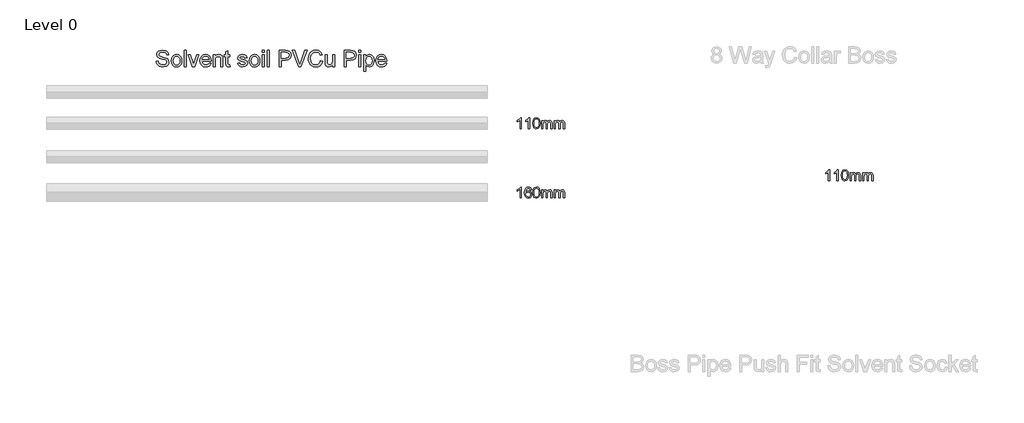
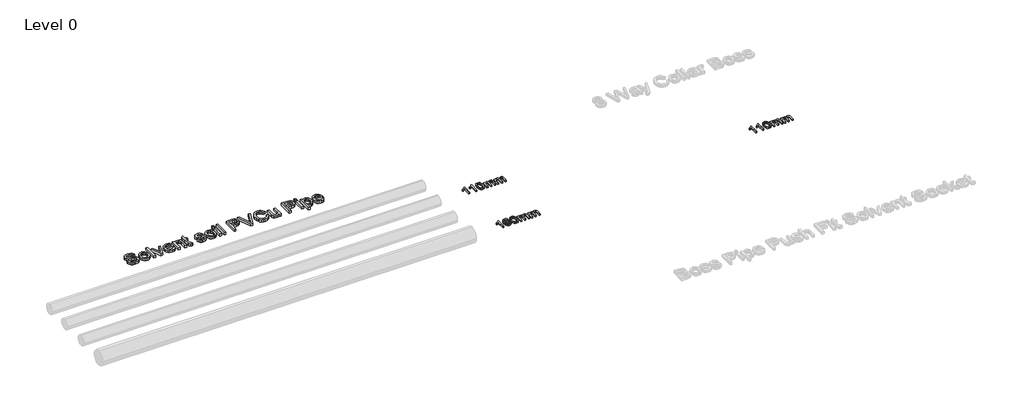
# One storey, part 13 of 28: 4 proxies.
"""IFC4 building model written with IfcOpenShell, lengths in millimetres."""

from ifc_helpers import new_model, si_unit, origin, origin_with_axes, place, context, project, spatial, polyline, outline, extrude, element, save

model = new_model("IFC4")

# Units and contexts
model_context = context("Model", 3, world=origin())
ifc_project = project(units=[si_unit("LENGTHUNIT", "METRE", prefix="MILLI")], contexts=[model_context])

# Site, building, storey
site = spatial("IfcSite", under=ifc_project)
building = spatial("IfcBuilding", under=site)
storey = spatial("IfcBuildingStorey", under=building, Name="Level 0", Elevation=0.0)

# Proxies
placement = place(None, origin())
element("IfcBuildingElementProxy", 1, Name="100mm Arial", ObjectType="100mm Arial", at=placement, inside=storey, context=model_context, shape_type="SweptSolid", body=[
    extrude(outline(polyline([(-23591.7293188, 8710.0861605), (-23604.0370111, 8710.0861605), (-23604.0370111, 8786.8169297), (-23615.6956649, 8778.5116413), (-23628.6523957, 8772.297699), (-23628.6523957, 8783.9323143), (-23610.6115303, 8795.4467374), (-23599.6620111, 8808.547699), (-23591.7293188, 8808.547699), (-23591.7293188, 8710.0861605)])), origin_with_axes(), (0.0, 0.0, 1.0), 15.0),
    extrude(outline(polyline([(-23516.3447034, 8710.0861605), (-23528.6523957, 8710.0861605), (-23528.6523957, 8786.8169297), (-23540.3110495, 8778.5116413), (-23553.2677803, 8772.297699), (-23553.2677803, 8783.9323143), (-23535.2269149, 8795.4467374), (-23524.2773957, 8808.547699), (-23516.3447034, 8808.547699), (-23516.3447034, 8710.0861605)])), origin_with_axes(), (0.0, 0.0, 1.0), 15.0),
    extrude(outline(polyline([(-23487.1139341, 8758.5236605), (-23483.4961457, 8786.8529874), (-23472.7509534, 8803.187122), (-23454.8062418, 8808.547699), (-23440.4312418, 8805.374622), (-23430.5033572, 8796.2279874), (-23424.7341264, 8781.6606797), (-23422.4985495, 8758.5236605), (-23426.0802803, 8730.3145259), (-23436.7894149, 8713.9443336), (-23454.8062418, 8708.547699), (-23467.5947034, 8710.891449), (-23477.3062418, 8717.922699), (-23484.6620111, 8734.5753432), (-23487.1139341, 8758.5236605)]), holes=[polyline([(-23474.8062418, 8758.547699), (-23473.3639341, 8739.187723), (-23469.0370111, 8727.9827951), (-23462.5947034, 8722.6372422), (-23454.8062418, 8720.8553913), (-23447.0177803, 8722.6432518), (-23440.5754726, 8728.0068336), (-23436.2485495, 8739.2177711), (-23434.8062418, 8758.547699), (-23436.2004726, 8777.4719778), (-23440.3831649, 8788.7640451), (-23446.8134534, 8794.3710163), (-23454.9504726, 8796.2400066), (-23462.6547995, 8794.593372), (-23468.8447034, 8789.6534682), (-23473.3158572, 8777.6582759), (-23474.8062418, 8758.547699)])]), origin_with_axes(), (0.0, 0.0, 1.0), 15.0),
    extrude(outline(polyline([(-23408.6523957, 8710.0861605), (-23408.6523957, 8782.3938528), (-23396.3447034, 8782.3938528), (-23396.3447034, 8770.4948143), (-23387.8831649, 8780.2424105), (-23375.8398957, 8783.9323143), (-23363.5081649, 8780.1702951), (-23356.7293188, 8769.6294297), (-23347.1259534, 8780.3565932), (-23334.9985495, 8783.9323143), (-23325.7467466, 8782.4449345), (-23318.9047995, 8777.9827951), (-23314.6770351, 8770.4257038), (-23313.2677803, 8759.6534682), (-23313.2677803, 8710.0861605), (-23325.5754726, 8710.0861605), (-23325.5754726, 8754.3650066), (-23326.7172995, 8764.641449), (-23330.8519149, 8769.7015451), (-23337.8831649, 8771.624622), (-23349.9865303, 8766.6967374), (-23354.8062418, 8750.9034682), (-23354.8062418, 8710.0861605), (-23367.1139341, 8710.0861605), (-23367.1139341, 8755.735199), (-23369.9624918, 8767.6582759), (-23379.3014341, 8771.624622), (-23388.4120111, 8768.9803913), (-23394.4697034, 8761.2400066), (-23396.3447034, 8746.5525066), (-23396.3447034, 8710.0861605), (-23408.6523957, 8710.0861605)])), origin_with_axes(), (0.0, 0.0, 1.0), 15.0),
    extrude(outline(polyline([(-23294.8062418, 8710.0861605), (-23294.8062418, 8782.3938528), (-23282.4985495, 8782.3938528), (-23282.4985495, 8770.4948143), (-23274.0370111, 8780.2424105), (-23261.9937418, 8783.9323143), (-23249.6620111, 8780.1702951), (-23242.8831649, 8769.6294297), (-23233.2797995, 8780.3565932), (-23221.1523957, 8783.9323143), (-23211.9005928, 8782.4449345), (-23205.0586457, 8777.9827951), (-23200.8308813, 8770.4257038), (-23199.4216264, 8759.6534682), (-23199.4216264, 8710.0861605), (-23211.7293188, 8710.0861605), (-23211.7293188, 8754.3650066), (-23212.8711457, 8764.641449), (-23217.0057611, 8769.7015451), (-23224.0370111, 8771.624622), (-23236.1403764, 8766.6967374), (-23240.960088, 8750.9034682), (-23240.960088, 8710.0861605), (-23253.2677803, 8710.0861605), (-23253.2677803, 8755.735199), (-23256.116338, 8767.6582759), (-23265.4552803, 8771.624622), (-23274.5658572, 8768.9803913), (-23280.6235495, 8761.2400066), (-23282.4985495, 8746.5525066), (-23282.4985495, 8710.0861605), (-23294.8062418, 8710.0861605)])), origin_with_axes(), (0.0, 0.0, 1.0), 15.0),
])
element("IfcBuildingElementProxy", 2, Name="100mm Arial", ObjectType="100mm Arial", at=placement, inside=storey, context=model_context, shape_type="SweptSolid", body=[
    extrude(outline(polyline([(-23591.7293188, 8081.2108342), (-23604.0370111, 8081.2108342), (-23604.0370111, 8157.9416034), (-23615.6956649, 8149.636315), (-23628.6523957, 8143.4223727), (-23628.6523957, 8155.056988), (-23610.6115303, 8166.5714111), (-23599.6620111, 8179.6723727), (-23591.7293188, 8179.6723727), (-23591.7293188, 8081.2108342)])), origin_with_axes(), (0.0, 0.0, 1.0), 15.0),
    extrude(outline(polyline([(-23499.4216264, 8153.5185265), (-23511.7293188, 8151.980065), (-23516.3927803, 8162.244488), (-23528.7245111, 8167.3646804), (-23539.8302803, 8164.3839111), (-23548.2317226, 8153.1940073), (-23551.7293188, 8131.2589111), (-23540.8759534, 8141.0786227), (-23527.4264341, 8144.2877573), (-23516.0562418, 8142.0942477), (-23506.5129726, 8135.5137188), (-23500.0406168, 8125.4596323), (-23497.8831649, 8112.8454496), (-23501.9456649, 8095.8622765), (-23513.1235495, 8083.8430457), (-23529.2533572, 8079.6723727), (-23543.2166986, 8082.4367957), (-23554.3374918, 8090.730065), (-23561.6121313, 8105.369488), (-23564.0370111, 8127.1723727), (-23561.3447034, 8151.6855938), (-23553.2677803, 8168.4464111), (-23542.2401361, 8176.8658823), (-23527.9552803, 8179.6723727), (-23517.1560014, 8177.9355938), (-23508.5081649, 8172.7252573), (-23502.4504726, 8164.4500169), (-23499.4216264, 8153.5185265)]), holes=[polyline([(-23551.7293188, 8113.0377573), (-23548.8807611, 8102.3766996), (-23541.3086457, 8094.636315), (-23530.2148957, 8091.980065), (-23522.0929005, 8093.3562669), (-23515.7076841, 8097.4848727), (-23511.5700639, 8103.9752573), (-23510.1908572, 8112.4367957), (-23511.5520351, 8120.5587909), (-23515.6355688, 8126.7516996), (-23530.7197034, 8131.980065), (-23545.6115303, 8126.7516996), (-23550.1998716, 8120.7090313), (-23551.7293188, 8113.0377573)])]), origin_with_axes(), (0.0, 0.0, 1.0), 15.0),
    extrude(outline(polyline([(-23487.1139341, 8129.6483342), (-23483.4961457, 8157.9776611), (-23472.7509534, 8174.3117957), (-23454.8062418, 8179.6723727), (-23440.4312418, 8176.4992957), (-23430.5033572, 8167.3526611), (-23424.7341264, 8152.7853534), (-23422.4985495, 8129.6483342), (-23426.0802803, 8101.4391996), (-23436.7894149, 8085.0690073), (-23454.8062418, 8079.6723727), (-23467.5947034, 8082.0161227), (-23477.3062418, 8089.0473727), (-23484.6620111, 8105.7000169), (-23487.1139341, 8129.6483342)]), holes=[polyline([(-23474.8062418, 8129.6723727), (-23473.3639341, 8110.3123967), (-23469.0370111, 8099.1074688), (-23462.5947034, 8093.7619159), (-23454.8062418, 8091.980065), (-23447.0177803, 8093.7679255), (-23440.5754726, 8099.1315073), (-23436.2485495, 8110.3424448), (-23434.8062418, 8129.6723727), (-23436.2004726, 8148.5966515), (-23440.3831649, 8159.8887188), (-23446.8134534, 8165.49569), (-23454.9504726, 8167.3646804), (-23462.6547995, 8165.7180457), (-23468.8447034, 8160.7781419), (-23473.3158572, 8148.7829496), (-23474.8062418, 8129.6723727)])]), origin_with_axes(), (0.0, 0.0, 1.0), 15.0),
    extrude(outline(polyline([(-23408.6523957, 8081.2108342), (-23408.6523957, 8153.5185265), (-23396.3447034, 8153.5185265), (-23396.3447034, 8141.619488), (-23387.8831649, 8151.3670842), (-23375.8398957, 8155.056988), (-23363.5081649, 8151.2949688), (-23356.7293188, 8140.7541034), (-23347.1259534, 8151.4812669), (-23334.9985495, 8155.056988), (-23325.7467466, 8153.5696082), (-23318.9047995, 8149.1074688), (-23314.6770351, 8141.5503775), (-23313.2677803, 8130.7781419), (-23313.2677803, 8081.2108342), (-23325.5754726, 8081.2108342), (-23325.5754726, 8125.4896804), (-23326.7172995, 8135.7661227), (-23330.8519149, 8140.8262188), (-23337.8831649, 8142.7492957), (-23349.9865303, 8137.8214111), (-23354.8062418, 8122.0281419), (-23354.8062418, 8081.2108342), (-23367.1139341, 8081.2108342), (-23367.1139341, 8126.8598727), (-23369.9624918, 8138.7829496), (-23379.3014341, 8142.7492957), (-23388.4120111, 8140.105065), (-23394.4697034, 8132.3646804), (-23396.3447034, 8117.6771804), (-23396.3447034, 8081.2108342), (-23408.6523957, 8081.2108342)])), origin_with_axes(), (0.0, 0.0, 1.0), 15.0),
    extrude(outline(polyline([(-23294.8062418, 8081.2108342), (-23294.8062418, 8153.5185265), (-23282.4985495, 8153.5185265), (-23282.4985495, 8141.619488), (-23274.0370111, 8151.3670842), (-23261.9937418, 8155.056988), (-23249.6620111, 8151.2949688), (-23242.8831649, 8140.7541034), (-23233.2797995, 8151.4812669), (-23221.1523957, 8155.056988), (-23211.9005928, 8153.5696082), (-23205.0586457, 8149.1074688), (-23200.8308813, 8141.5503775), (-23199.4216264, 8130.7781419), (-23199.4216264, 8081.2108342), (-23211.7293188, 8081.2108342), (-23211.7293188, 8125.4896804), (-23212.8711457, 8135.7661227), (-23217.0057611, 8140.8262188), (-23224.0370111, 8142.7492957), (-23236.1403764, 8137.8214111), (-23240.960088, 8122.0281419), (-23240.960088, 8081.2108342), (-23253.2677803, 8081.2108342), (-23253.2677803, 8126.8598727), (-23256.116338, 8138.7829496), (-23265.4552803, 8142.7492957), (-23274.5658572, 8140.105065), (-23280.6235495, 8132.3646804), (-23282.4985495, 8117.6771804), (-23282.4985495, 8081.2108342), (-23294.8062418, 8081.2108342)])), origin_with_axes(), (0.0, 0.0, 1.0), 15.0),
])
element("IfcBuildingElementProxy", 3, Name="100mm Arial", ObjectType="100mm Arial", at=placement, inside=storey, context=model_context, shape_type="SweptSolid", body=[
    extrude(outline(polyline([(-20791.7293188, 8237.7167304), (-20804.0370111, 8237.7167304), (-20804.0370111, 8314.4474996), (-20815.6956649, 8306.1422111), (-20828.6523957, 8299.9282688), (-20828.6523957, 8311.5628842), (-20810.6115303, 8323.0773073), (-20799.6620111, 8336.1782688), (-20791.7293188, 8336.1782688), (-20791.7293188, 8237.7167304)])), origin_with_axes(), (0.0, 0.0, 1.0), 15.0),
    extrude(outline(polyline([(-20716.3447034, 8237.7167304), (-20728.6523957, 8237.7167304), (-20728.6523957, 8314.4474996), (-20740.3110495, 8306.1422111), (-20753.2677803, 8299.9282688), (-20753.2677803, 8311.5628842), (-20735.2269149, 8323.0773073), (-20724.2773957, 8336.1782688), (-20716.3447034, 8336.1782688), (-20716.3447034, 8237.7167304)])), origin_with_axes(), (0.0, 0.0, 1.0), 15.0),
    extrude(outline(polyline([(-20687.1139341, 8286.1542304), (-20683.4961457, 8314.4835573), (-20672.7509534, 8330.8176919), (-20654.8062418, 8336.1782688), (-20640.4312418, 8333.0051919), (-20630.5033572, 8323.8585573), (-20624.7341264, 8309.2912496), (-20622.4985495, 8286.1542304), (-20626.0802803, 8257.9450958), (-20636.7894149, 8241.5749035), (-20654.8062418, 8236.1782688), (-20667.5947034, 8238.5220188), (-20677.3062418, 8245.5532688), (-20684.6620111, 8262.2059131), (-20687.1139341, 8286.1542304)]), holes=[polyline([(-20674.8062418, 8286.1782688), (-20673.3639341, 8266.8182929), (-20669.0370111, 8255.613365), (-20662.5947034, 8250.2678121), (-20654.8062418, 8248.4859611), (-20647.0177803, 8250.2738217), (-20640.5754726, 8255.6374035), (-20636.2485495, 8266.848341), (-20634.8062418, 8286.1782688), (-20636.2004726, 8305.1025477), (-20640.3831649, 8316.394615), (-20646.8134534, 8322.0015861), (-20654.9504726, 8323.8705765), (-20662.6547995, 8322.2239419), (-20668.8447034, 8317.2840381), (-20673.3158572, 8305.2888458), (-20674.8062418, 8286.1782688)])]), origin_with_axes(), (0.0, 0.0, 1.0), 15.0),
    extrude(outline(polyline([(-20608.6523957, 8237.7167304), (-20608.6523957, 8310.0244227), (-20596.3447034, 8310.0244227), (-20596.3447034, 8298.1253842), (-20587.8831649, 8307.8729804), (-20575.8398957, 8311.5628842), (-20563.5081649, 8307.800865), (-20556.7293188, 8297.2599996), (-20547.1259534, 8307.9871631), (-20534.9985495, 8311.5628842), (-20525.7467466, 8310.0755044), (-20518.9047995, 8305.613365), (-20514.6770351, 8298.0562736), (-20513.2677803, 8287.2840381), (-20513.2677803, 8237.7167304), (-20525.5754726, 8237.7167304), (-20525.5754726, 8281.9955765), (-20526.7172995, 8292.2720188), (-20530.8519149, 8297.332115), (-20537.8831649, 8299.2551919), (-20549.9865303, 8294.3273073), (-20554.8062418, 8278.5340381), (-20554.8062418, 8237.7167304), (-20567.1139341, 8237.7167304), (-20567.1139341, 8283.3657688), (-20569.9624918, 8295.2888458), (-20579.3014341, 8299.2551919), (-20588.4120111, 8296.6109611), (-20594.4697034, 8288.8705765), (-20596.3447034, 8274.1830765), (-20596.3447034, 8237.7167304), (-20608.6523957, 8237.7167304)])), origin_with_axes(), (0.0, 0.0, 1.0), 15.0),
    extrude(outline(polyline([(-20494.8062418, 8237.7167304), (-20494.8062418, 8310.0244227), (-20482.4985495, 8310.0244227), (-20482.4985495, 8298.1253842), (-20474.0370111, 8307.8729804), (-20461.9937418, 8311.5628842), (-20449.6620111, 8307.800865), (-20442.8831649, 8297.2599996), (-20433.2797995, 8307.9871631), (-20421.1523957, 8311.5628842), (-20411.9005928, 8310.0755044), (-20405.0586457, 8305.613365), (-20400.8308813, 8298.0562736), (-20399.4216264, 8287.2840381), (-20399.4216264, 8237.7167304), (-20411.7293188, 8237.7167304), (-20411.7293188, 8281.9955765), (-20412.8711457, 8292.2720188), (-20417.0057611, 8297.332115), (-20424.0370111, 8299.2551919), (-20436.1403764, 8294.3273073), (-20440.960088, 8278.5340381), (-20440.960088, 8237.7167304), (-20453.2677803, 8237.7167304), (-20453.2677803, 8283.3657688), (-20456.116338, 8295.2888458), (-20465.4552803, 8299.2551919), (-20474.5658572, 8296.6109611), (-20480.6235495, 8288.8705765), (-20482.4985495, 8274.1830765), (-20482.4985495, 8237.7167304), (-20494.8062418, 8237.7167304)])), origin_with_axes(), (0.0, 0.0, 1.0), 15.0),
])
element("IfcBuildingElementProxy", 4, Name="150mm Arial", ObjectType="150mm Arial", at=placement, inside=storey, context=model_context, shape_type="SweptSolid", body=[
    extrude(outline(polyline([(-26906.241976, 9323.1874709), (-26887.7804375, 9323.1874709), (-26881.8309183, 9304.7079036), (-26867.2996683, 9293.0252113), (-26845.1602452, 9288.5720863), (-26825.8693798, 9291.9434805), (-26813.4114471, 9301.2103075), (-26809.3188991, 9313.5961248), (-26812.3838029, 9325.1165575), (-26824.9318798, 9333.4999709), (-26851.8128895, 9340.5492498), (-26880.7491875, 9349.6538171), (-26896.4523125, 9363.3917978), (-26901.6265914, 9381.7451632), (-26900.0265313, 9392.5579637), (-26895.226351, 9402.6405959), (-26887.3522524, 9411.186269), (-26876.5304375, 9417.3881921), (-26849.1626491, 9422.4182401), (-26819.9559183, 9417.1538171), (-26808.7600048, 9410.654418), (-26800.4847645, 9401.6850671), (-26795.2473846, 9390.8046584), (-26793.1650529, 9378.5720863), (-26811.6265914, 9378.5720863), (-26815.0160145, 9389.5877113), (-26822.0833221, 9397.5384325), (-26833.1259904, 9402.3521344), (-26848.4414952, 9403.9567017), (-26864.117577, 9402.3701632), (-26874.8717837, 9397.6105478), (-26881.0917356, 9390.6063411), (-26883.1650529, 9382.2860286), (-26881.695702, 9375.1916776), (-26877.2876491, 9369.4855478), (-26847.1434183, 9359.1730478), (-26814.4751491, 9349.9062209), (-26803.9508101, 9343.2085046), (-26796.6085625, 9334.9422786), (-26790.8573606, 9314.0648748), (-26792.5115072, 9302.6841656), (-26797.4739471, 9291.9795382), (-26805.5418558, 9282.7667978), (-26816.5124087, 9275.8617498), (-26844.4390914, 9270.1105478), (-26862.5265313, 9271.6610286), (-26877.413851, 9276.3124709), (-26889.2723245, 9284.0829036), (-26898.273226, 9294.9903555), (-26904.0514712, 9308.2776151), (-26906.241976, 9323.1874709)])), origin_with_axes(), (0.0, 0.0, 1.0), 25.0),
    extrude(outline(polyline([(-26770.0881298, 9326.6490094), (-26766.0947404, 9352.7998507), (-26754.1145721, 9371.1802594), (-26739.3128895, 9380.185668), (-26721.5905337, 9383.1874709), (-26702.1960024, 9379.5321224), (-26686.7047164, 9368.5660767), (-26676.5499688, 9351.1547185), (-26673.1650529, 9328.1634325), (-26674.6614471, 9309.5125911), (-26679.1506298, 9295.3148748), (-26686.5018919, 9284.6823627), (-26696.5845241, 9276.7271344), (-26708.5601851, 9271.7646945), (-26721.5905337, 9270.1105478), (-26741.2194399, 9273.7523748), (-26756.6926971, 9284.6778555), (-26766.7392717, 9302.4542978), (-26770.0881298, 9326.6490094)]), holes=[polyline([(-26751.6265914, 9326.6850671), (-26749.4901731, 9309.9768339), (-26743.0809183, 9298.0732882), (-26733.4354856, 9290.9473868), (-26721.5905337, 9288.5720863), (-26709.7996683, 9290.9609084), (-26700.1722645, 9298.1273748), (-26693.7630096, 9310.1886728), (-26691.6265914, 9327.2619901), (-26693.7765313, 9343.4834445), (-26700.226351, 9355.2247305), (-26709.8672765, 9362.350632), (-26721.5905337, 9364.7259325), (-26733.4354856, 9362.3596464), (-26743.0809183, 9355.2607882), (-26749.4901731, 9343.3842858), (-26751.6265914, 9326.6850671)])]), origin_with_axes(), (0.0, 0.0, 1.0), 25.0),
    extrude(outline(polyline([(-26652.3958221, 9272.4182401), (-26652.3958221, 9420.1105478), (-26633.9342837, 9420.1105478), (-26633.9342837, 9272.4182401), (-26652.3958221, 9272.4182401)])), origin_with_axes(), (0.0, 0.0, 1.0), 25.0),
    extrude(outline(polyline([(-26579.6313991, 9272.4182401), (-26617.7804375, 9380.8797786), (-26598.2371683, 9380.8797786), (-26575.1241875, 9315.9038171), (-26568.1650529, 9294.0528555), (-26561.3501491, 9314.6778555), (-26538.0929375, 9380.8797786), (-26518.5496683, 9380.8797786), (-26556.2299568, 9272.4182401), (-26579.6313991, 9272.4182401)])), origin_with_axes(), (0.0, 0.0, 1.0), 25.0),
    extrude(outline(polyline([(-26426.4583221, 9304.7259325), (-26408.3573606, 9302.4182401), (-26414.8792957, 9288.779418), (-26425.2864471, 9278.5841055), (-26439.3444399, 9272.2289373), (-26456.8188991, 9270.1105478), (-26478.4805577, 9273.7658964), (-26495.148226, 9284.7319421), (-26505.7762308, 9302.2965454), (-26509.3188991, 9325.7475671), (-26505.7401731, 9349.9873507), (-26495.0039952, 9368.1153555), (-26478.5616875, 9379.4194421), (-26457.8645721, 9383.1874709), (-26437.811988, 9379.4284565), (-26421.788851, 9368.1514132), (-26411.2825409, 9350.0594661), (-26407.7804375, 9325.8557401), (-26407.8886106, 9320.8797786), (-26490.8573606, 9320.8797786), (-26487.6617476, 9307.060668), (-26480.2383702, 9296.9014132), (-26469.5247284, 9290.654418), (-26456.4583221, 9288.5720863), (-26438.3573606, 9292.4302594), (-26426.4583221, 9304.7259325)]), holes=[polyline([(-26490.8573606, 9339.3413171), (-26426.241976, 9339.3413171), (-26428.7389712, 9349.0949228), (-26433.6338029, 9356.0720863), (-26444.3970241, 9362.5624709), (-26457.9366875, 9364.7259325), (-26470.3810986, 9362.9996704), (-26480.6710625, 9357.8208844), (-26487.8240072, 9349.7484685), (-26490.8573606, 9339.3413171)])]), origin_with_axes(), (0.0, 0.0, 1.0), 25.0),
    extrude(outline(polyline([(-26389.3188991, 9272.4182401), (-26389.3188991, 9380.8797786), (-26370.8573606, 9380.8797786), (-26370.8573606, 9365.7355478), (-26356.7407741, 9378.8244901), (-26337.4679375, 9383.1874709), (-26320.0340433, 9379.6718459), (-26308.1350048, 9370.4410767), (-26302.6001491, 9356.8653555), (-26301.6265914, 9339.0167978), (-26301.6265914, 9272.4182401), (-26320.0881298, 9272.4182401), (-26320.0881298, 9336.5288171), (-26322.2155337, 9352.8629517), (-26329.7335625, 9361.498769), (-26342.4078414, 9364.7259325), (-26353.2206419, 9362.9140334), (-26362.4378895, 9357.4783363), (-26368.7524928, 9346.9765334), (-26370.8573606, 9329.9663171), (-26370.8573606, 9272.4182401), (-26389.3188991, 9272.4182401)])), origin_with_axes(), (0.0, 0.0, 1.0), 25.0),
    extrude(outline(polyline([(-26237.0112068, 9287.8148748), (-26234.7035145, 9271.8773748), (-26248.5136106, 9270.1105478), (-26263.9823606, 9273.1754517), (-26271.6987068, 9281.2163171), (-26273.9342837, 9302.1658363), (-26273.9342837, 9362.4182401), (-26287.7804375, 9362.4182401), (-26287.7804375, 9380.8797786), (-26273.9342837, 9380.8797786), (-26273.9342837, 9407.2379517), (-26255.4727452, 9418.0913171), (-26255.4727452, 9380.8797786), (-26237.0112068, 9380.8797786), (-26237.0112068, 9362.4182401), (-26255.4727452, 9362.4182401), (-26255.4727452, 9302.7067017), (-26254.4991875, 9293.1874709), (-26251.3441395, 9289.8160767), (-26245.0520721, 9288.5720863), (-26237.0112068, 9287.8148748)])), origin_with_axes(), (0.0, 0.0, 1.0), 25.0),
    extrude(outline(polyline([(-26167.7804375, 9304.7259325), (-26149.3188991, 9307.0336248), (-26146.4072404, 9299.1369901), (-26140.773226, 9293.3317017), (-26121.1938991, 9288.5720863), (-26102.3717837, 9292.9350671), (-26096.241976, 9303.1754517), (-26102.4078414, 9311.4687209), (-26121.4102452, 9316.733144), (-26149.210726, 9325.7655959), (-26161.3441395, 9336.3124709), (-26165.4727452, 9351.2042978), (-26162.1554375, 9364.9603075), (-26153.1049568, 9375.4711248), (-26141.3681779, 9380.9338651), (-26125.4847645, 9383.1874709), (-26103.0208221, 9379.5636728), (-26088.741976, 9369.7559805), (-26082.3958221, 9353.1874709), (-26100.8573606, 9350.8797786), (-26107.7984664, 9361.0660767), (-26124.0424568, 9364.7259325), (-26141.710726, 9361.2283363), (-26147.0112068, 9353.0792978), (-26144.8116875, 9347.7067017), (-26137.9246683, 9343.6321825), (-26122.023226, 9339.701894), (-26094.9258702, 9331.0119901), (-26082.3417356, 9321.1682401), (-26077.7804375, 9305.1225671), (-26083.1350048, 9287.4542978), (-26098.585726, 9274.6357882), (-26121.4463029, 9270.1105478), (-26140.0610866, 9272.2920382), (-26153.6458221, 9278.8365094), (-26162.7143318, 9289.6718459), (-26167.7804375, 9304.7259325)])), origin_with_axes(), (0.0, 0.0, 1.0), 25.0),
    extrude(outline(polyline([(-26061.6265914, 9326.6490094), (-26057.633202, 9352.7998507), (-26045.6530337, 9371.1802594), (-26030.851351, 9380.185668), (-26013.1289952, 9383.1874709), (-25993.734464, 9379.5321224), (-25978.2431779, 9368.5660767), (-25968.0884303, 9351.1547185), (-25964.7035145, 9328.1634325), (-25966.1999087, 9309.5125911), (-25970.6890914, 9295.3148748), (-25978.0403534, 9284.6823627), (-25988.1229856, 9276.7271344), (-26000.0986467, 9271.7646945), (-26013.1289952, 9270.1105478), (-26032.7579015, 9273.7523748), (-26048.2311587, 9284.6778555), (-26058.2777332, 9302.4542978), (-26061.6265914, 9326.6490094)]), holes=[polyline([(-26043.1650529, 9326.6850671), (-26041.0286346, 9309.9768339), (-26034.6193798, 9298.0732882), (-26024.9739471, 9290.9473868), (-26013.1289952, 9288.5720863), (-26001.3381298, 9290.9609084), (-25991.710726, 9298.1273748), (-25985.3014712, 9310.1886728), (-25983.1650529, 9327.2619901), (-25985.3149928, 9343.4834445), (-25991.7648125, 9355.2247305), (-26001.405738, 9362.350632), (-26013.1289952, 9364.7259325), (-26024.9739471, 9362.3596464), (-26034.6193798, 9355.2607882), (-26041.0286346, 9343.3842858), (-26043.1650529, 9326.6850671)])]), origin_with_axes(), (0.0, 0.0, 1.0), 25.0),
    extrude(outline(polyline([(-25943.9342837, 9272.4182401), (-25943.9342837, 9380.8797786), (-25925.4727452, 9380.8797786), (-25925.4727452, 9272.4182401), (-25943.9342837, 9272.4182401)])), origin_with_axes(), (0.0, 0.0, 1.0), 25.0),
    extrude(outline(polyline([(-25943.9342837, 9401.6490094), (-25943.9342837, 9420.1105478), (-25925.4727452, 9420.1105478), (-25925.4727452, 9401.6490094), (-25943.9342837, 9401.6490094)])), origin_with_axes(), (0.0, 0.0, 1.0), 25.0),
    extrude(outline(polyline([(-25897.7804375, 9272.4182401), (-25897.7804375, 9420.1105478), (-25879.3188991, 9420.1105478), (-25879.3188991, 9272.4182401), (-25897.7804375, 9272.4182401)])), origin_with_axes(), (0.0, 0.0, 1.0), 25.0),
    extrude(outline(polyline([(-25791.6265914, 9272.4182401), (-25791.6265914, 9420.1105478), (-25736.8910145, 9420.1105478), (-25714.8237068, 9418.7042978), (-25696.8850048, 9411.7992498), (-25685.2563991, 9397.5204036), (-25680.8573606, 9377.3821825), (-25683.827613, 9359.9753315), (-25692.7383702, 9345.4711248), (-25709.4015313, 9335.6814613), (-25735.6289952, 9332.4182401), (-25773.1650529, 9332.4182401), (-25773.1650529, 9272.4182401), (-25791.6265914, 9272.4182401)]), holes=[polyline([(-25773.1650529, 9350.8797786), (-25734.5472645, 9350.8797786), (-25718.1770721, 9352.5744901), (-25707.3597645, 9357.6586248), (-25701.3291154, 9365.8166776), (-25699.3188991, 9376.733144), (-25704.0604856, 9392.0216055), (-25716.5184183, 9400.3869901), (-25734.9799568, 9401.6490094), (-25773.1650529, 9401.6490094), (-25773.1650529, 9350.8797786)])]), origin_with_axes(), (0.0, 0.0, 1.0), 25.0),
    extrude(outline(polyline([(-25611.8429375, 9272.4182401), (-25670.616976, 9420.1105478), (-25650.8573606, 9420.1105478), (-25611.5184183, 9313.7042978), (-25603.5496683, 9289.7259325), (-25595.6890914, 9313.7042978), (-25556.241976, 9420.1105478), (-25536.4823606, 9420.1105478), (-25592.7684183, 9272.4182401), (-25611.8429375, 9272.4182401)])), origin_with_axes(), (0.0, 0.0, 1.0), 25.0),
    extrude(outline(polyline([(-25415.4727452, 9324.9182401), (-25397.0112068, 9320.1586248), (-25405.5298366, 9298.6457041), (-25418.898226, 9282.9290575), (-25436.4583221, 9273.3151752), (-25457.5520721, 9270.1105478), (-25478.9658342, 9272.5354276), (-25495.9715433, 9279.8100671), (-25509.0063991, 9291.6820623), (-25518.507601, 9307.8990094), (-25524.3083822, 9326.9645142), (-25526.241976, 9347.3821825), (-25524.0559784, 9368.9176392), (-25517.4979856, 9387.514394), (-25506.9105457, 9402.5820022), (-25492.6362068, 9413.530019), (-25475.7071202, 9420.1961849), (-25457.1554375, 9422.4182401), (-25436.9135505, 9419.5426392), (-25420.1782741, 9410.9158363), (-25407.4724447, 9397.0696825), (-25399.3188991, 9378.5360286), (-25417.7804375, 9374.1369901), (-25424.1806779, 9387.600031), (-25432.9246683, 9396.8353075), (-25444.1205818, 9402.1763531), (-25457.8765914, 9403.9567017), (-25473.7329616, 9401.982543), (-25486.7588029, 9396.0600671), (-25496.6431178, 9386.811269), (-25503.0749087, 9374.858144), (-25507.7804375, 9347.4182401), (-25502.2095241, 9315.6153555), (-25495.0881298, 9303.7388531), (-25484.8657741, 9295.2968459), (-25472.6106659, 9290.2532762), (-25459.3910145, 9288.5720863), (-25443.9808582, 9290.8617498), (-25431.1398125, 9297.7307401), (-25421.4448005, 9309.1069421), (-25415.4727452, 9324.9182401)])), origin_with_axes(), (0.0, 0.0, 1.0), 25.0),
    extrude(outline(polyline([(-25304.7035145, 9272.4182401), (-25304.7035145, 9291.0600671), (-25319.1626491, 9275.3479276), (-25338.0208221, 9270.1105478), (-25355.382601, 9273.7884325), (-25367.3537548, 9283.0192017), (-25372.8525529, 9296.6129517), (-25373.9342837, 9313.7764132), (-25373.9342837, 9380.8797786), (-25355.4727452, 9380.8797786), (-25355.4727452, 9322.4663171), (-25354.3549568, 9303.6442017), (-25347.0532741, 9292.592519), (-25333.2972645, 9288.5720863), (-25317.882601, 9292.6826632), (-25307.6963029, 9303.8785767), (-25304.7035145, 9324.4494901), (-25304.7035145, 9380.8797786), (-25286.241976, 9380.8797786), (-25286.241976, 9272.4182401), (-25304.7035145, 9272.4182401)])), origin_with_axes(), (0.0, 0.0, 1.0), 25.0),
    extrude(outline(polyline([(-25200.8573606, 9272.4182401), (-25200.8573606, 9420.1105478), (-25146.1217837, 9420.1105478), (-25124.054476, 9418.7042978), (-25106.1157741, 9411.7992498), (-25094.4871683, 9397.5204036), (-25090.0881298, 9377.3821825), (-25093.0583822, 9359.9753315), (-25101.9691395, 9345.4711248), (-25118.6323005, 9335.6814613), (-25144.8597645, 9332.4182401), (-25182.3958221, 9332.4182401), (-25182.3958221, 9272.4182401), (-25200.8573606, 9272.4182401)]), holes=[polyline([(-25182.3958221, 9350.8797786), (-25143.7780337, 9350.8797786), (-25127.4078414, 9352.5744901), (-25116.5905337, 9357.6586248), (-25110.5598846, 9365.8166776), (-25108.5496683, 9376.733144), (-25113.2912548, 9392.0216055), (-25125.7491875, 9400.3869901), (-25144.210726, 9401.6490094), (-25182.3958221, 9401.6490094), (-25182.3958221, 9350.8797786)])]), origin_with_axes(), (0.0, 0.0, 1.0), 25.0),
    extrude(outline(polyline([(-25067.0112068, 9272.4182401), (-25067.0112068, 9380.8797786), (-25048.5496683, 9380.8797786), (-25048.5496683, 9272.4182401), (-25067.0112068, 9272.4182401)])), origin_with_axes(), (0.0, 0.0, 1.0), 25.0),
    extrude(outline(polyline([(-25067.0112068, 9401.6490094), (-25067.0112068, 9420.1105478), (-25048.5496683, 9420.1105478), (-25048.5496683, 9401.6490094), (-25067.0112068, 9401.6490094)])), origin_with_axes(), (0.0, 0.0, 1.0), 25.0),
    extrude(outline(polyline([(-25020.8573606, 9230.8797786), (-25020.8573606, 9380.8797786), (-25002.3958221, 9380.8797786), (-25002.3958221, 9362.7788171), (-24989.6313991, 9378.0853075), (-24972.3958221, 9383.1874709), (-24959.9108462, 9381.4026151), (-24948.9943798, 9376.0480478), (-24940.1061587, 9367.4482882), (-24933.7059183, 9355.9278555), (-24928.5496683, 9327.4783363), (-24930.0054976, 9311.6895743), (-24934.3729856, 9297.5684805), (-24941.5124087, 9285.8317017), (-24951.2840433, 9277.1958844), (-24962.6647524, 9271.881882), (-24974.6313991, 9270.1105478), (-24990.695101, 9274.8521344), (-25002.3958221, 9286.8413171), (-25002.3958221, 9230.8797786), (-25020.8573606, 9230.8797786)]), holes=[polyline([(-25002.3958221, 9325.7836248), (-25000.3991274, 9309.233144), (-24994.4090433, 9297.6586248), (-24985.5704015, 9290.8437209), (-24975.0280337, 9288.5720863), (-24964.3143919, 9290.9248507), (-24955.2503895, 9297.983144), (-24949.0710024, 9309.9813411), (-24947.0112068, 9327.1538171), (-24949.0214231, 9343.6141536), (-24955.0520721, 9355.3509325), (-24963.8771923, 9362.3821825), (-24974.2708221, 9364.7259325), (-24984.7050169, 9362.2334445), (-24993.8681779, 9354.7559805), (-25000.2639111, 9342.5279156), (-25002.3958221, 9325.7836248)])]), origin_with_axes(), (0.0, 0.0, 1.0), 25.0),
    extrude(outline(polyline([(-24831.8429375, 9304.7259325), (-24813.741976, 9302.4182401), (-24820.2639111, 9288.779418), (-24830.6710625, 9278.5841055), (-24844.7290553, 9272.2289373), (-24862.2035145, 9270.1105478), (-24883.8651731, 9273.7658964), (-24900.5328414, 9284.7319421), (-24911.1608462, 9302.2965454), (-24914.7035145, 9325.7475671), (-24911.1247885, 9349.9873507), (-24900.3886106, 9368.1153555), (-24883.9463029, 9379.4194421), (-24863.2491875, 9383.1874709), (-24843.1966034, 9379.4284565), (-24827.1734664, 9368.1514132), (-24816.6671563, 9350.0594661), (-24813.1650529, 9325.8557401), (-24813.273226, 9320.8797786), (-24896.241976, 9320.8797786), (-24893.046363, 9307.060668), (-24885.6229856, 9296.9014132), (-24874.9093438, 9290.654418), (-24861.8429375, 9288.5720863), (-24843.741976, 9292.4302594), (-24831.8429375, 9304.7259325)]), holes=[polyline([(-24896.241976, 9339.3413171), (-24831.6265914, 9339.3413171), (-24834.1235866, 9349.0949228), (-24839.0184183, 9356.0720863), (-24849.7816395, 9362.5624709), (-24863.3213029, 9364.7259325), (-24875.765714, 9362.9996704), (-24886.0556779, 9357.8208844), (-24893.2086226, 9349.7484685), (-24896.241976, 9339.3413171)])]), origin_with_axes(), (0.0, 0.0, 1.0), 25.0),
])

save(model, "model.ifc")
